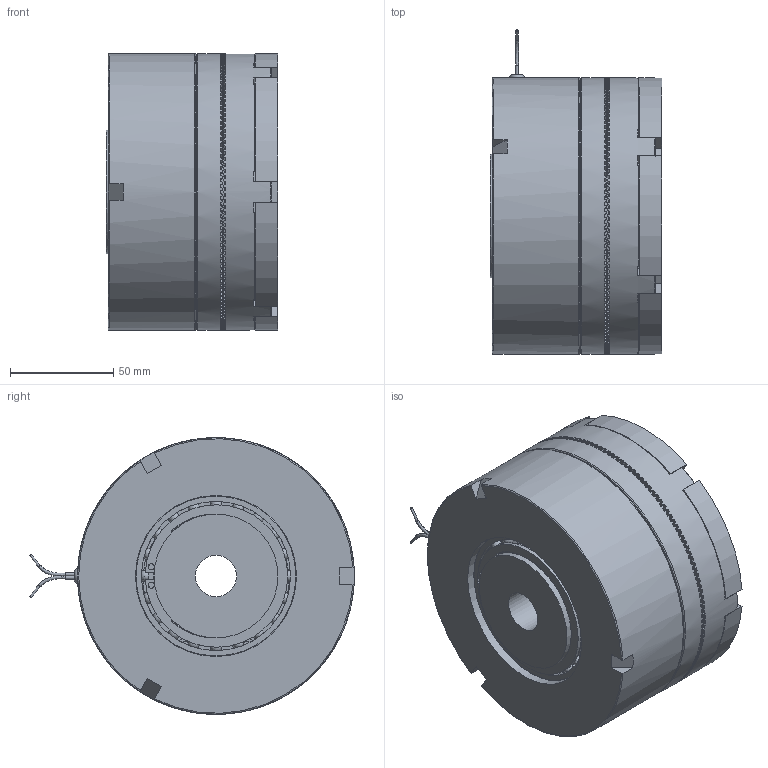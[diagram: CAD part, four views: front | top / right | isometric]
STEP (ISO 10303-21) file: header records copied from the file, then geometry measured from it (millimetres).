
FILE_DESCRIPTION(/* description */ ('MOZZO CON ROTORE'),/* implementation_level */ '2;1');
FILE_NAME(/* name */ '\\NAS-TECNICO\tecnico\INVENTOR\DISEGNI\07_Innesti_Elettmag_a_Dentini\07_05 ESB_Z\07_05_134_01 ESB134_Z\07_05_134_01 ESB134_Z ok.stp',/* time_stamp */ '2017-04-03T09:27:55+02:00',/* author */ ('ivan'),/* organization */ (''),/* preprocessor_version */ 'ST-DEVELOPER v16.1',/* originating_system */ 'Autodesk Inventor 2016',/* authorisation */ '');
FILE_SCHEMA (('AUTOMOTIVE_DESIGN { 1 0 10303 214 3 1 1 }'));
Products named in the file (17): C104_070513401 MOZZO CON ROTORE-2015; C612_AV 60; DIN 625 SKF - SKF 61812-2RS1; C118_070513401 COPPA MAGNETE-2015; DIN 472 - 78 x 2,5; C018_070113401 ANELLO DENTATO MAGNETE; C103_070513401 ANELLO A CAMPANA DENTATO TRA -2015; C112_070513402 ARMATURA FORATA ESB-134_Z - 2015; 45_06_134_01 FLANGIA PORTA ANCORA FF134_ZB; C012_070513401 DISTANZIALE; BOBINA-2015; RESINA-2015; C073_06_Gommino_Salvafilo_D=06+Cavetti; R140_070113402 PERNO GUIDA MOLLA EC134_Z; R048_070113401; DIN 6885 - A 4 x 4 x 10; 07_05_134_01 ESB134_Z
Assembly tree (26 placements, depth 2):
  07_05_134_01 ESB134_Z
    C104_070513401 MOZZO CON ROTORE-2015
    C612_AV 60
    DIN 625 SKF - SKF 61812-2RS1  x2
    C118_070513401 COPPA MAGNETE-2015
    DIN 472 - 78 x 2,5
    C018_070113401 ANELLO DENTATO MAGNETE
    C103_070513401 ANELLO A CAMPANA DENTATO TRA -2015
    C112_070513402 ARMATURA FORATA ESB-134_Z - 2015
    45_06_134_01 FLANGIA PORTA ANCORA FF134_ZB
    C012_070513401 DISTANZIALE
    BOBINA-2015
    RESINA-2015
    C073_06_Gommino_Salvafilo_D=06+Cavetti
    R140_070113402 PERNO GUIDA MOLLA EC134_Z  x3
    R048_070113401  x3
    DIN 6885 - A 4 x 4 x 10  x6
Bounding box: 83.1 x 157.22 x 134 mm (x, y, z)
Volume: 985454 mm3; surface area: 317088.4 mm2
Topology: 27 solids, 28 shells, 1752 faces, 5283 edges, 3491 vertices
Faces by surface type: plane 1401, cylinder 179, torus 105, sphere 40, cone 22, bspline 5
Full cylindrical faces by diameter (mm): 1.154 x2, 1.5 x2, 3 x4, 4 x3, 4.134 x3, 5 x3, 6 x48, 7 x3, 8 x3, 12 x3, 13 x3, 20 x1, 57 x1, 60 x6, 62 x1, 65 x1, 65.5 x1, 65.76 x4, 72.24 x4, 77.5 x1, 78 x4, 81 x1, 92 x1, 94 x4, 96 x2, 104.5 x1, 112 x2, 114 x4, 120 x3, 123 x1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
Entity records: 57467 total; most frequent: CARTESIAN_POINT 12438, DIRECTION 10444, ORIENTED_EDGE 9112, EDGE_CURVE 4553, AXIS2_PLACEMENT_3D 4455, VERTEX_POINT 3075, EDGE_LOOP 1860, ELLIPSE 1731
